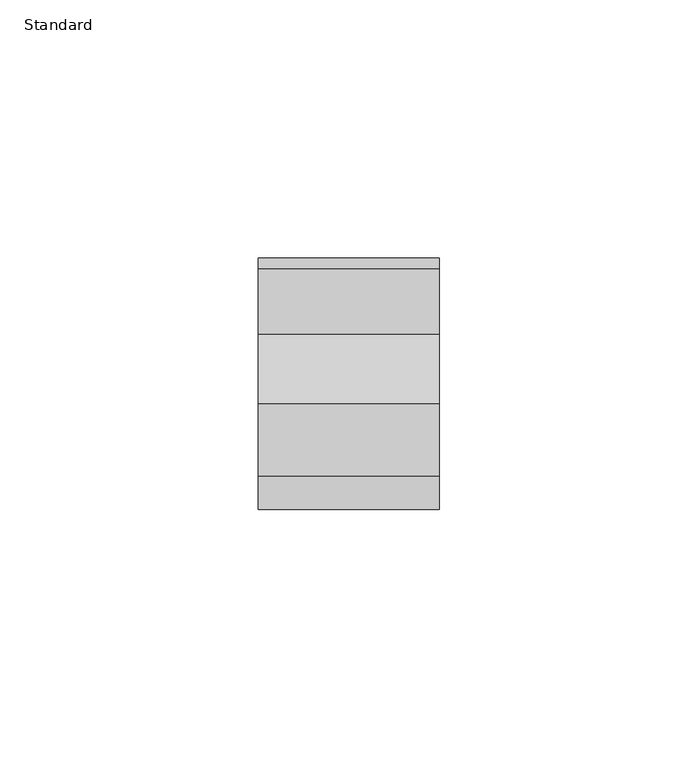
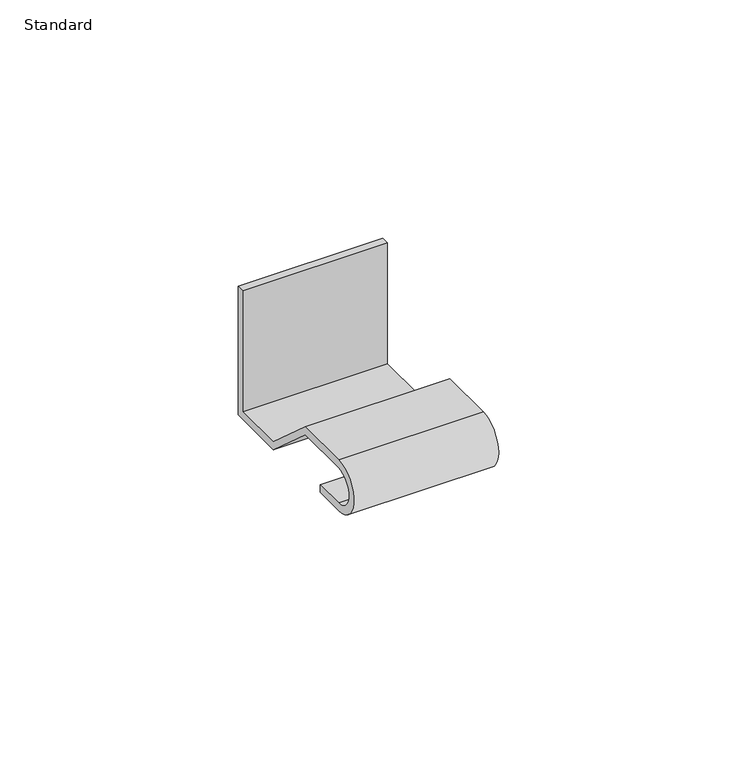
"""IFC4 building model written with IfcOpenShell, lengths in millimetres: electric appliance geometry, Clip-Trapeze-Cablofil : Standard."""

import ifcopenshell
import ifcopenshell.guid

model = None  # the IFC model being written
_history = None  # IfcOwnerHistory: only IFC2X3 demands one
_inside = {}  # id of a spatial element -> (the spatial element, [elements in it])
_under = {}  # id of a project, library or spatial element -> (it, [spatial elements below it])
_declared = {}  # id of a project -> (the project, [libraries it declares])
_typed = {}  # id of a type object -> (the type object, [elements of that type])
_made_of = {}  # id of a material, layer set ... -> (it, [elements and type objects made of it])


def new_model(schema):
    """Start an empty IFC model of exactly this schema.

    Asked for "IFC4X3", IfcOpenShell would pick the latest addendum, in which some entities
    have other attributes; the version numbers below select the first issue.
    IFC2X3 requires an IfcOwnerHistory on every rooted entity: one is made here for all.
    """
    global model, _history
    if schema == "IFC4X3":
        model = ifcopenshell.file(schema_version=(4, 3, 0, 0))
    else:
        model = ifcopenshell.file(schema=schema)
    _inside.clear()
    _under.clear()
    _declared.clear()
    _typed.clear()
    _made_of.clear()
    _history = None
    if model.schema == "IFC2X3":
        org = make("IfcOrganization", Name="unknown")
        user = make(
            "IfcPersonAndOrganization",
            ThePerson=make("IfcPerson", FamilyName="unknown"),
            TheOrganization=org,
        )
        app = make(
            "IfcApplication",
            ApplicationDeveloper=org,
            Version="unknown",
            ApplicationFullName="unknown",
            ApplicationIdentifier="unknown",
        )
        _history = make(
            "IfcOwnerHistory",
            OwningUser=user,
            OwningApplication=app,
            ChangeAction="ADDED",
            CreationDate=0,
        )
    return model


def make(cls, **values):
    """One entity of the class cls with the attributes given. An attribute that is None is left unset."""
    return model.create_entity(
        cls, **{name: value for name, value in values.items() if value is not None}
    )


def rooted(cls, **values):
    """An entity with a GlobalId (a new one), such as an element, a storey or a relation."""
    return make(cls, GlobalId=ifcopenshell.guid.new(), OwnerHistory=_history, **values)


def si_unit(unit_type, name, prefix=None):
    """IfcSIUnit, for example si_unit("LENGTHUNIT", "METRE", prefix="MILLI")."""
    return make("IfcSIUnit", UnitType=unit_type, Prefix=prefix, Name=name)


def assignment(units):
    """IfcUnitAssignment: the units of a project."""
    return None if units is None else make("IfcUnitAssignment", Units=units)


def point(xyz):
    """IfcCartesianPoint."""
    return None if xyz is None else make("IfcCartesianPoint", Coordinates=xyz)


def direction(xyz):
    """IfcDirection."""
    return None if xyz is None else make("IfcDirection", DirectionRatios=xyz)


def frame(location, z_axis=None, x_axis=None):
    """IfcAxis2Placement3D, a coordinate frame: its origin and axes. An axis left out is left unset."""
    return make(
        "IfcAxis2Placement3D",
        Location=point(location),
        Axis=direction(z_axis),
        RefDirection=direction(x_axis),
    )


def frame_2d(location, x_axis=None):
    """IfcAxis2Placement2D, a coordinate frame in the plane: its origin and x axis."""
    return make(
        "IfcAxis2Placement2D", Location=point(location), RefDirection=direction(x_axis)
    )


def origin():
    """The frame at (0, 0, 0) with its axes left unset."""
    return frame((0.0, 0.0, 0.0))


def place(relative_to, where):
    """IfcLocalPlacement: puts the frame where relative to a parent placement (None: the world)."""
    return make(
        "IfcLocalPlacement", PlacementRelTo=relative_to, RelativePlacement=where
    )


def context(
    kind, dimensions, precision=None, world=None, true_north=None, identifier=None
):
    """IfcGeometricRepresentationContext, for example the 3D "Model" context."""
    return make(
        "IfcGeometricRepresentationContext",
        ContextIdentifier=identifier,
        ContextType=kind,
        CoordinateSpaceDimension=dimensions,
        Precision=precision,
        WorldCoordinateSystem=world,
        TrueNorth=true_north,
    )


def project(units=None, contexts=None):
    """IfcProject with its units and contexts."""
    return rooted(
        "IfcProject",
        Name="project",
        RepresentationContexts=contexts,
        UnitsInContext=assignment(units),
    )


def spatial(cls, under=None, at=None, **own):
    """A site, building, storey or space (cls), placed at a placement, below another one or the project."""
    s = rooted(cls, ObjectPlacement=at, **own)
    if under is not None:
        _under.setdefault(under.id(), (under, []))[1].append(s)
    return s


def polyline(points):
    """IfcPolyline through the points."""
    return make("IfcPolyline", Points=[point(p) for p in points])


def circle_curve(where, radius):
    """IfcCircle in the frame where."""
    return make("IfcCircle", Position=where, Radius=radius)


def trimmed(basis, trim1, trim2, sense, master):
    """IfcTrimmedCurve: the piece of a basis curve between two trims."""
    return make(
        "IfcTrimmedCurve",
        BasisCurve=basis,
        Trim1=trim1,
        Trim2=trim2,
        SenseAgreement=sense,
        MasterRepresentation=master,
    )


def segment(curve, same_sense, transition):
    """IfcCompositeCurveSegment."""
    return make(
        "IfcCompositeCurveSegment",
        Transition=transition,
        SameSense=same_sense,
        ParentCurve=curve,
    )


def composite_curve(segments, self_intersect=None):
    """IfcCompositeCurve: segments joined end to end."""
    return make("IfcCompositeCurve", Segments=segments, SelfIntersect=self_intersect)


def outline(outer, holes=None, kind="AREA"):
    """IfcArbitraryClosedProfileDef: a profile drawn as a closed curve; with holes, ...WithVoids."""
    if holes is None:
        return make("IfcArbitraryClosedProfileDef", ProfileType=kind, OuterCurve=outer)
    return make(
        "IfcArbitraryProfileDefWithVoids",
        ProfileType=kind,
        OuterCurve=outer,
        InnerCurves=holes,
    )


def extrude(swept, where, along, depth):
    """IfcExtrudedAreaSolid: the profile swept, set in the frame where, extruded along a direction by depth."""
    return make(
        "IfcExtrudedAreaSolid",
        SweptArea=swept,
        Position=where,
        ExtrudedDirection=direction(along),
        Depth=depth,
    )


def shape(context_of_items, identifier, shape_type, items):
    """IfcShapeRepresentation: the items that make up one representation, for example the "Body"."""
    return make(
        "IfcShapeRepresentation",
        ContextOfItems=context_of_items,
        RepresentationIdentifier=identifier,
        RepresentationType=shape_type,
        Items=items,
    )


def source(mapping_origin, context_of_items, identifier, shape_type, items):
    """IfcRepresentationMap: a shape defined once, which mapped items show again and again."""
    return make(
        "IfcRepresentationMap",
        MappingOrigin=mapping_origin,
        MappedRepresentation=shape(context_of_items, identifier, shape_type, items),
    )


def transform(
    local_origin,
    x_axis=None,
    y_axis=None,
    z_axis=None,
    scale=None,
    scale2=None,
    scale3=None,
    uniform=True,
):
    """IfcCartesianTransformationOperator3D, or its non-uniform kind. x_axis, y_axis, z_axis: its Axis1, 2, 3."""
    if uniform:
        return make(
            "IfcCartesianTransformationOperator3D",
            Axis1=direction(x_axis),
            Axis2=direction(y_axis),
            LocalOrigin=point(local_origin),
            Scale=scale,
            Axis3=direction(z_axis),
        )
    return make(
        "IfcCartesianTransformationOperator3DnonUniform",
        Axis1=direction(x_axis),
        Axis2=direction(y_axis),
        LocalOrigin=point(local_origin),
        Scale=scale,
        Axis3=direction(z_axis),
        Scale2=scale2,
        Scale3=scale3,
    )


def mapped(mapping_source, mapping_target):
    """IfcMappedItem: shows the shape of a source again, moved by a transform."""
    return make(
        "IfcMappedItem", MappingSource=mapping_source, MappingTarget=mapping_target
    )


def made_of(thing, what):
    """Note that an element or type object is made of a material, layer set ...; save() writes the relation."""
    if what is not None:
        _made_of.setdefault(what.id(), (what, []))[1].append(thing)
    return thing


def element(
    cls,
    number,
    at=None,
    inside=None,
    cuts=None,
    type_object=None,
    material=None,
    context=None,
    identifier="Body",
    shape_type=None,
    held_by="IfcProductDefinitionShape",
    body=None,
    shapes=None,
    **own,
):
    """One element of the class cls, such as IfcWall. Its Tag is "e" and its number.

    at: its placement. inside: the storey or other place that contains it. cuts: it is an
    opening in that element (IfcRelVoidsElement). A single representation is given by context,
    identifier, shape_type and body (its items); several are given by shapes. held_by: the class
    of the entity that holds the representations. save() writes the other relations.
    """
    e = rooted(cls, Tag="e%d" % number, ObjectPlacement=at, **own)
    if body is not None:
        shapes = [shape(context, identifier, shape_type, body)]
    if shapes is not None:
        e.Representation = make(held_by, Representations=shapes)
    if inside is not None:
        _inside.setdefault(inside.id(), (inside, []))[1].append(e)
    if cuts is not None:
        rooted(
            "IfcRelVoidsElement", RelatingBuildingElement=cuts, RelatedOpeningElement=e
        )
    if type_object is not None:
        _typed.setdefault(type_object.id(), (type_object, []))[1].append(e)
    return made_of(e, material)


def aggregate(whole, parts):
    """IfcRelAggregates: a whole, such as a stair, and the parts it consists of."""
    return rooted("IfcRelAggregates", RelatingObject=whole, RelatedObjects=parts)


def save(model, path):
    """Write the relations noted so far, then the file.

    IfcRelAggregates (storeys below a building ...), IfcRelContainedInSpatialStructure (elements
    in a storey), IfcRelDefinesByType, IfcRelAssociatesMaterial and IfcRelDeclares: one each for
    every whole, place, type object, material and project.
    """
    for whole, parts in _under.values():
        aggregate(whole, parts)
    for where, things in _inside.values():
        rooted(
            "IfcRelContainedInSpatialStructure",
            RelatedElements=things,
            RelatingStructure=where,
        )
    for kind, things in _typed.values():
        rooted("IfcRelDefinesByType", RelatedObjects=things, RelatingType=kind)
    for what, things in _made_of.values():
        rooted("IfcRelAssociatesMaterial", RelatedObjects=things, RelatingMaterial=what)
    for by, libraries in _declared.values():
        rooted("IfcRelDeclares", RelatingContext=by, RelatedDefinitions=libraries)
    model.write(path)


def standard_d3cc3933(model_context):
    return source(origin(), model_context, "Body", "SweptSolid", [
        extrude(outline(composite_curve([segment(trimmed(circle_curve(frame_2d((-8.4054026, -4.5)), 6.5), [point((-8.4054026, -11.0))], [point((-8.4054026, 2.0))], False, "CARTESIAN"), True, "CONTINUOUS"), segment(polyline([(-8.4054026, 2.0), (5.5945974, 2.0), (19.05, -10.0), (31.75, -10.0), (31.75, 21.0), (33.75, 21.0), (33.75, -12.0), (19.05, -12.0), (5.5945974, 0.0), (-8.4054026, 0.0)]), True, "CONTINUOUS"), segment(trimmed(circle_curve(frame_2d((-8.4054026, -4.5)), 4.5), [point((-8.4054026, 0.0))], [point((-8.4054026, -9.0))], True, "CARTESIAN"), True, "CONTINUOUS"), segment(polyline([(-8.4054026, -9.0), (-0.7554026, -9.0), (-0.7554026, -11.0), (-8.4054026, -11.0)]), True, "CONTINUOUS")], self_intersect=False)), frame((-17.526, 0.0, 0.0), z_axis=(1.0, 0.0, 0.0), x_axis=(0.0, 1.0, 0.0)), (0.0, 0.0, 1.0), 35.052),
    ])


if __name__ == "__main__":
    model = new_model("IFC4")
    model_context = context("Model", 3, world=origin())
    ifc_project = project(units=[si_unit("LENGTHUNIT", "METRE", prefix="MILLI")], contexts=[model_context])
    site = spatial("IfcSite", under=ifc_project)
    building = spatial("IfcBuilding", under=site)
    placement = place(None, origin())
    standard_shape = standard_d3cc3933(model_context)
    element("IfcElectricAppliance", 1, ObjectType="Clip-Trapeze-Cablofil : Standard", at=placement, inside=building, context=model_context, shape_type="MappedRepresentation", body=[
        mapped(standard_shape, transform((0.0, 0.0, 0.0), x_axis=(1.0, 0.0, 0.0), y_axis=(0.0, 1.0, 0.0), z_axis=(0.0, 0.0, 1.0))),
    ])
    save(model, "model.ifc")
